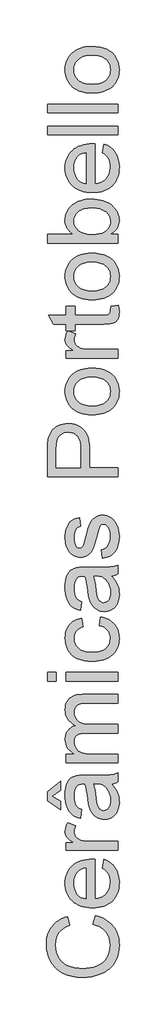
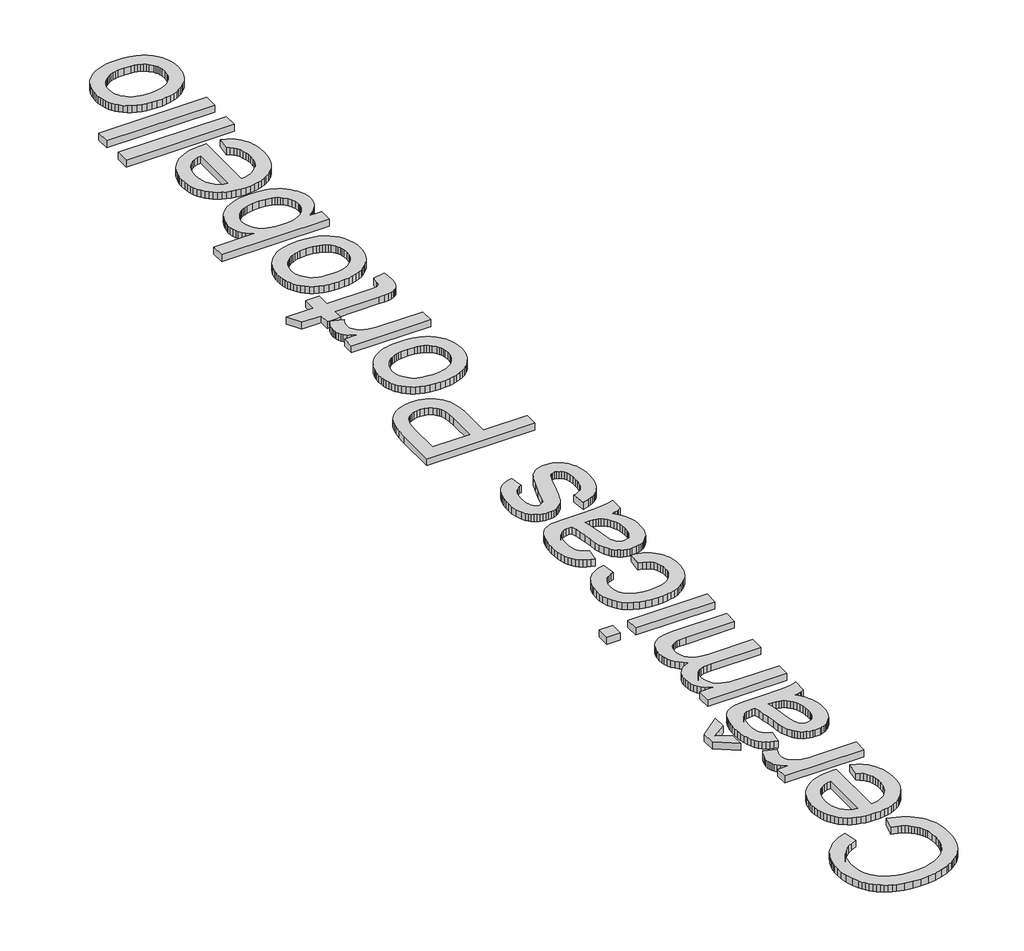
# One storey, part 2 of 4: 1 proxy.
"""IFC4 building model written with IfcOpenShell, lengths in millimetres."""

from ifc_helpers import new_model, si_unit, origin, origin_with_axes, place, context, project, spatial, polyline, outline, extrude, element, save

model = new_model("IFC4")

# Units and contexts
model_context = context("Model", 3, world=origin())
ifc_project = project(units=[si_unit("LENGTHUNIT", "METRE", prefix="MILLI")], contexts=[model_context])

# Site, building, storey
site = spatial("IfcSite", under=ifc_project)
building = spatial("IfcBuilding", under=site)
storey = spatial("IfcBuildingStorey", under=building, Name="PORTOBELLO - SHOWROOM", Elevation=0.0)

# Proxy
placement = place(None, origin())
element("IfcBuildingElementProxy", 1, Name="1200mm OpenSans", ObjectType="1200mm OpenSans", at=placement, inside=storey, context=model_context, shape_type="SweptSolid", body=[
    extrude(outline(polyline([(65897.4001985, 12599.2450748), (65944.9927817, 12783.8466097), (66004.2046479, 12767.0979414), (66059.7941146, 12747.3184007), (66111.7611818, 12724.5079877), (66160.1058495, 12698.6667023), (66204.8281177, 12669.7945445), (66245.9279864, 12637.8915143), (66283.4054556, 12602.9576118), (66317.2605253, 12564.9928369), (66347.3016534, 12524.4084419), (66373.3372977, 12481.6156789), (66395.3674583, 12436.6145479), (66413.3921351, 12389.4050489), (66427.4113282, 12339.987182), (66437.4250376, 12288.3609471), (66443.4332632, 12234.5263442), (66445.4360051, 12178.4833734), (66439.3742603, 12065.9129428), (66431.7970794, 12013.759967), (66421.1890261, 11964.3618177), (66407.5501005, 11917.7184947), (66390.8803024, 11873.8299981), (66371.179632, 11832.6963278), (66348.4480893, 11794.3174839), (66322.8434147, 11758.4202372), (66294.5233489, 11724.7313585), (66263.4878919, 11693.2508477), (66229.7370437, 11663.9787049), (66193.2708042, 11636.9149301), (66154.0891735, 11612.0595233), (66112.1921516, 11589.4124844), (66067.5797384, 11568.9738135), (65973.9494433, 11535.1384614), (65876.9389932, 11510.9703527), (65776.548388, 11496.4694875), (65672.7776278, 11491.6358658), (65561.4353202, 11497.1004498), (65457.4392163, 11513.4942018), (65360.789316, 11540.8171219), (65315.2191922, 11558.5770199), (65271.4856194, 11579.0692099), (65229.9575977, 11602.0796155), (65191.0041275, 11627.39416), (65154.6252087, 11655.0128437), (65120.8208413, 11684.9356663), (65089.5910254, 11717.162628), (65060.9357609, 11751.6937287), (65034.8550478, 11788.5289684), (65011.3488862, 11827.6683472), (64972.4658359, 11910.2793368), (64944.6922285, 11996.9465124), (64928.0280641, 12087.6698742), (64922.4733426, 12182.449422), (64924.2704583, 12236.337544), (64929.6618057, 12288.0341988), (64938.6473845, 12337.5393864), (64951.2271949, 12384.8531068), (64967.4012369, 12429.97536), (64987.1695104, 12472.906146), (65010.5320154, 12513.6454648), (65037.488752, 12552.1933165), (65067.7073382, 12588.2229526), (65100.8553921, 12621.4076248), (65136.9329138, 12651.7473333), (65175.9399031, 12679.2420779), (65217.8763602, 12703.8918586), (65262.742285, 12725.6966755), (65310.5376775, 12744.6565286), (65361.2625377, 12760.7714178), (65405.2496222, 12576.169883), (65332.6551587, 12547.1005495), (65270.6293134, 12512.1722806), (65219.1720863, 12471.3850762), (65178.2834773, 12424.7389364), (65147.1297148, 12371.9634488), (65124.8770274, 12312.788201), (65111.5254149, 12247.2131928), (65107.0748774, 12175.2384245), (65112.0099038, 12092.4246256), (65126.814983, 12016.686618), (65151.4901149, 11948.0244016), (65186.0352996, 11886.4379764), (65228.8956657, 11832.7047782), (65278.5163419, 11787.6022426), (65334.8973283, 11751.1303695), (65398.0386247, 11723.289159), (65465.0783667, 11702.7040147), (65533.1546895, 11688.0003402), (65602.2675933, 11679.1781355), (65672.4170779, 11676.2374006), (65760.5715218, 11679.7189603), (65842.9571677, 11690.1636395), (65919.5740157, 11707.571438), (65990.4220656, 11731.942356), (66054.0929197, 11763.6707448), (66109.17818, 11803.1509558), (66155.6778464, 11850.3829892), (66193.5919189, 11905.3668448), (66223.0105351, 11965.4322001), (66244.0238324, 12027.9087328), (66256.6318108, 12092.7964427), (66260.8344702, 12160.0953298), (66255.110741, 12240.3514781), (66237.9395533, 12314.1853317), (66225.0611625, 12348.693898), (66209.3209071, 12381.5968907), (66190.7187871, 12412.8943098), (66169.2548025, 12442.5861551), (66144.974022, 12470.311877), (66117.9215144, 12495.7109255), (66088.0972796, 12518.7833005), (66055.5013177, 12539.5290022), (66020.1336286, 12557.9480304), (65981.9942124, 12574.0403853), (65897.4001985, 12599.2450748)])), origin_with_axes(), (0.0, 0.0, 1.0), 100.0),
    extrude(outline(polyline([(66099.3081272, 13773.9165603), (66122.3833191, 13954.9125964), (66194.8763779, 13927.1615234), (66227.8948592, 13909.6438698), (66258.7613084, 13889.6981381), (66287.4757256, 13867.3243285), (66314.0381108, 13842.5224407), (66338.4484639, 13815.2924749), (66360.706785, 13785.6344311), (66380.5651959, 13753.6947826), (66397.7758187, 13719.6200029), (66412.3386535, 13683.4100918), (66424.2537, 13645.0650495), (66440.1404288, 13561.969571), (66445.4360051, 13470.3335674), (66443.1515836, 13411.5019686), (66436.2983192, 13355.7913797), (66424.8762119, 13303.2018006), (66408.8852617, 13253.7332314), (66388.3254686, 13207.3856719), (66363.1968325, 13164.1591223), (66333.4993535, 13124.0535826), (66299.2330317, 13087.0690527), (66260.8429206, 13053.8590292), (66218.7740741, 13025.0770089), (66173.0264922, 13000.7229917), (66123.6001749, 12980.7969777), (66070.4951222, 12965.2989667), (66013.711334, 12954.2289589), (65953.2488104, 12947.5869542), (65889.1075514, 12945.3729527), (65822.7832756, 12947.6094886), (65760.278575, 12954.3190964), (65701.5934496, 12965.501776), (65646.7278995, 12981.1575276), (65595.6819245, 13001.2863509), (65548.4555248, 13025.8882461), (65505.0487002, 13054.9632132), (65465.4614509, 13088.5112522), (65430.1388306, 13125.6253547), (65399.525893, 13165.3985125), (65373.622638, 13207.8307257), (65352.4290658, 13252.9219941), (65335.9451763, 13300.6723179), (65324.1709695, 13351.081697), (65317.1064455, 13404.1501314), (65314.7516041, 13459.8776211), (65317.1008119, 13513.7826439), (65324.1484352, 13565.1694511), (65335.894474, 13614.0380429), (65352.3389284, 13660.3884191), (65373.4817982, 13704.2205798), (65399.3230836, 13745.534525), (65429.8627846, 13784.3302546), (65465.1009011, 13820.6077688), (65504.5980129, 13853.4375248), (65547.9147, 13881.88998), (65595.0509622, 13905.9651344), (65646.0067997, 13925.6629879), (65700.7822124, 13940.9835407), (65759.3772003, 13951.9267927), (65821.7917634, 13958.4927439), (65888.0259018, 13960.6813943), (65937.7817842, 13959.5997447), (65937.7817842, 13129.9744875), (66011.4466301, 13140.6670447), (66044.8481957, 13149.9765551), (66075.962523, 13161.92822), (66104.789612, 13176.5220395), (66131.3294628, 13193.7580135), (66155.5820753, 13213.636142), (66177.5474496, 13236.1564251), (66213.9855211, 13286.7798806), (66240.0127151, 13343.284806), (66255.6290314, 13405.6712012), (66260.8344702, 13473.9390661), (66258.4232929, 13525.0019419), (66251.1897611, 13572.1889065), (66239.1338747, 13615.4999599), (66222.2556338, 13654.9351022), (66200.104351, 13690.4943334), (66172.229339, 13722.1776535), (66138.6305977, 13749.9850625), (66099.3081272, 13773.9165603)]), holes=[polyline([(65753.1802494, 13129.9744875), (65753.1802494, 13776.0798595), (65700.9455866, 13766.592891), (65655.6515088, 13751.1117808), (65617.2980161, 13729.636529), (65585.8851084, 13702.1671356), (65565.6041781, 13677.8638207), (65548.0273718, 13651.8253596), (65533.1546895, 13624.0517522), (65520.9861313, 13594.5429986), (65504.7613871, 13530.3200525), (65499.353139, 13459.1565213), (65503.6684703, 13394.2462771), (65516.6144641, 13334.7217465), (65538.1911206, 13280.5829297), (65568.3984396, 13231.8298266), (65605.8392904, 13190.9186832), (65649.1165424, 13160.3057456), (65698.2301953, 13139.9910137), (65753.1802494, 13129.9744875)])]), origin_with_axes(), (0.0, 0.0, 1.0), 100.0),
    extrude(outline(polyline([(66422.3608132, 14145.2829292), (65337.826796, 14145.2829292), (65337.826796, 14306.8092722), (65498.2714893, 14306.8092722), (65446.98327, 14337.2306677), (65405.2496222, 14366.4802761), (65373.070546, 14394.5580975), (65350.4460415, 14421.4641317), (65334.8297252, 14448.4152347), (65323.6752135, 14476.6282622), (65316.9825065, 14506.1032143), (65314.7516041, 14536.840091), (65318.3120341, 14582.6299248), (65328.9933241, 14628.7803085), (65346.7954741, 14675.2912421), (65371.718484, 14722.1627256), (65537.2108756, 14660.5086973), (65520.6481158, 14628.0592088), (65508.8175731, 14595.6097202), (65501.7192475, 14563.1602317), (65499.353139, 14530.7107431), (65501.62911, 14502.4188453), (65508.4570233, 14475.5916814), (65519.8368786, 14450.2292512), (65535.7686761, 14426.331555), (65555.7341253, 14404.7999673), (65579.2149358, 14386.5358628), (65606.2111075, 14371.5392415), (65636.7226405, 14359.8101035), (65687.1094852, 14346.7176362), (65739.8399041, 14337.3658739), (65794.9138972, 14331.7548165), (65852.3314644, 14329.884464), (66422.3608132, 14329.884464), (66422.3608132, 14145.2829292)])), origin_with_axes(), (0.0, 0.0, 1.0), 100.0),
    extrude(outline(polyline([(66283.9096621, 15529.7944405), (66324.9898132, 15486.0214325), (66359.5349979, 15441.5949279), (66387.5452161, 15396.5149266), (66409.0204679, 15350.7814287), (66424.9522654, 15303.8761437), (66436.3321208, 15255.2807812), (66443.160034, 15204.9953411), (66445.4360051, 15153.0198235), (66439.9601539, 15070.8257197), (66433.1153399, 15033.5228919), (66423.5326003, 14998.7495467), (66411.2119351, 14966.5056843), (66396.1533443, 14936.7913045), (66378.3568279, 14909.6064075), (66357.822386, 14884.9509931), (66335.1584463, 14863.0222372), (66310.9734369, 14844.0173154), (66285.2673577, 14827.9362277), (66258.0402087, 14814.7789741), (66229.2919899, 14804.5455547), (66199.0227014, 14797.2359694), (66133.920915, 14791.3883011), (66094.7787194, 14793.5966691), (66057.3942045, 14800.221773), (66021.7673702, 14811.2636129), (65987.8982165, 14826.7221887), (65956.5303776, 14845.774996), (65928.4074875, 14867.5995305), (65903.5295463, 14892.1957921), (65881.896554, 14919.5637809), (65846.7429414, 14980.6319156), (65821.3241753, 15048.8209103), (65807.1725928, 15115.2522243), (65793.5618351, 15208.5445039), (65779.5905276, 15310.0843618), (65764.3572954, 15397.2923623), (65747.8621388, 15470.1685053), (65730.1050575, 15528.7127909), (65689.002372, 15529.7944405), (65644.2491191, 15526.6170948), (65606.6167261, 15517.0850575), (65576.1051931, 15501.1983287), (65552.7145201, 15478.9569085), (65529.3689159, 15440.5132783), (65512.6934843, 15393.6868636), (65502.6882253, 15338.4776643), (65499.353139, 15274.8856805), (65501.5727741, 15215.7555014), (65508.2316796, 15164.9179693), (65519.3298554, 15122.3730843), (65534.8673014, 15088.1208464), (65556.0608736, 15059.975422), (65584.1274278, 15035.7509774), (65619.0669639, 15015.4475127), (65660.879482, 14999.0650278), (65637.8042901, 14814.463493), (65584.6231839, 14828.5136709), (65536.8503257, 14846.5073629), (65494.4857157, 14868.4445693), (65457.5293537, 14894.3252898), (65425.2376058, 14925.2649758), (65396.8668376, 14962.3790783), (65372.4170494, 15005.6675974), (65351.888241, 15055.1305331), (65335.6409624, 15109.765106), (65324.0357633, 15168.5685368), (65317.0726439, 15231.5408255), (65314.7516041, 15298.6819721), (65316.8022315, 15364.3133161), (65322.9541137, 15423.4772968), (65333.2072507, 15476.1739141), (65347.5616425, 15522.4031681), (65365.0145098, 15562.548143), (65384.5630732, 15596.9919231), (65406.2073328, 15625.7345082), (65429.9472885, 15648.7758985), (65456.3688338, 15667.4568888), (65486.0578624, 15683.1182739), (65519.0143742, 15695.7600538), (65555.2383692, 15705.3822286), (65619.0556967, 15712.1425387), (65716.7647122, 15714.3959754), (65946.4349812, 15714.3959754), (66146.4950918, 15716.7395495), (66267.144093, 15723.7702721), (66346.4199962, 15737.6514422), (66422.3608132, 15760.5463591), (66422.3608132, 15575.9448242), (66391.5337991, 15559.539805), (66358.1829358, 15546.3797347), (66322.3082235, 15536.4646132), (66283.9096621, 15529.7944405)]), holes=[polyline([(65914.7065924, 15529.7944405), (65930.6834586, 15473.9993477), (65945.443469, 15405.7652843), (65971.3129224, 15231.9802456), (65985.4645049, 15136.2091857), (66001.2385618, 15073.1580267), (66021.6997671, 15031.8299975), (66034.8373031, 15015.1883675), (66049.9127946, 15001.2283271), (66083.7143452, 14982.2994588), (66101.8995794, 14977.5672417), (66120.9411196, 14975.989836), (66149.6273688, 14979.426327), (66175.8348377, 14989.7357999), (66199.5635262, 15006.9182548), (66220.8134343, 15030.9736916), (66238.3226375, 15061.6767667), (66250.8292112, 15098.8021364), (66258.3331555, 15142.3498007), (66260.8344702, 15192.3197596), (66258.0740102, 15243.3375666), (66249.7926304, 15291.4709746), (66235.9903305, 15336.7199837), (66216.6671108, 15379.0845937), (66193.4229112, 15417.3028802), (66167.8576718, 15450.1129186), (66139.9713926, 15477.514709), (66109.7640735, 15499.5082512), (66082.7228331, 15512.2852373), (66049.9127946, 15521.411656), (66011.3339583, 15526.8875072), (65966.9863239, 15528.7127909), (65914.7065924, 15529.7944405)])]), origin_with_axes(), (0.0, 0.0, 1.0), 100.0),
    extrude(outline(polyline([(65037.8493019, 15275.9673301), (65222.4508367, 15172.1289668), (65222.4508367, 14987.5274319), (64945.5485344, 15183.6665627), (64945.5485344, 15368.2680975), (65222.4508367, 15587.4824202), (65222.4508367, 15402.8808853), (65037.8493019, 15275.9673301)])), origin_with_axes(), (0.0, 0.0, 1.0), 100.0),
    extrude(outline(polyline([(66422.3608132, 15968.2230858), (65337.826796, 15968.2230858), (65337.826796, 16152.8246206), (65516.298983, 16152.8246206), (65473.0893342, 16178.6039365), (65434.3189557, 16208.349301), (65399.9878475, 16242.0607141), (65370.0960096, 16279.7381758), (65345.8828322, 16320.7732582), (65328.5877055, 16364.5575334), (65318.2106295, 16411.0910013), (65314.7516041, 16460.3736621), (65318.2782326, 16514.2533337), (65328.8581179, 16563.0402383), (65346.4912601, 16606.734376), (65371.1776592, 16645.3357468), (65402.2187498, 16678.7316788), (65438.9159665, 16706.8095001), (65481.2693094, 16729.5692108), (65529.2787784, 16747.0108109), (65478.9989719, 16779.4715666), (65435.4231397, 16814.2984309), (65398.5512816, 16851.4914037), (65368.3833977, 16891.0504851), (65344.919488, 16932.975675), (65328.1595525, 16977.2669734), (65318.1035912, 17023.9243804), (65314.7516041, 17072.9478959), (65320.32886, 17146.8493526), (65327.3004298, 17180.4114755), (65337.0606275, 17211.7145281), (65349.6094531, 17240.7585105), (65364.9469067, 17267.5434225), (65383.0729882, 17292.0692642), (65403.9876976, 17314.3360357), (65427.8037068, 17334.1521947), (65454.6336876, 17351.3261992), (65484.4776399, 17365.8580491), (65517.3355639, 17377.7477445), (65553.2074594, 17386.9952854), (65592.0933265, 17393.6006718), (65678.9069756, 17398.8849808), (66422.3608132, 17398.8849808), (66422.3608132, 17214.283446), (65758.2279476, 17214.283446), (65666.1525238, 17210.0019163), (65631.3707283, 17204.6500041), (65604.092877, 17197.157327), (65581.7049833, 17186.8591213), (65561.5930608, 17173.090623), (65543.7571092, 17155.8518322), (65528.1971288, 17135.1427489), (65515.5778832, 17111.7182744), (65506.5641364, 17086.3333099), (65501.1558883, 17058.9878555), (65499.353139, 17029.6819111), (65503.9726842, 16977.368378), (65517.8313199, 16929.6743902), (65540.9290462, 16886.5999476), (65573.2658629, 16848.1450502), (65593.135541, 16831.202023), (65615.7882135, 16816.5180661), (65669.4425414, 16793.9273631), (65734.2288467, 16780.3729413), (65810.1471293, 16775.8548007), (66422.3608132, 16775.8548007), (66422.3608132, 16591.2532659), (65737.6766049, 16591.2532659), (65681.7463058, 16588.5829434), (65633.2974167, 16580.5719759), (65592.3299374, 16567.2203634), (65558.843868, 16548.528106), (65532.816674, 16523.7515694), (65514.2258212, 16492.1471196), (65503.0713095, 16453.7147566), (65499.353139, 16408.4544804), (65501.8319193, 16372.1966838), (65509.2682605, 16337.336018), (65521.6621623, 16303.8724829), (65539.013625, 16271.8060786), (65561.1423734, 16242.6015389), (65587.8681327, 16217.7235977), (65619.1909029, 16197.172255), (65655.110684, 16180.9475107), (65697.5428971, 16168.6437463), (65748.4029636, 16159.8553431), (65807.6908833, 16154.5823013), (65875.4066562, 16152.8246206), (66422.3608132, 16152.8246206), (66422.3608132, 15968.2230858)])), origin_with_axes(), (0.0, 0.0, 1.0), 100.0),
    extrude(outline(polyline([(65130.1500693, 17675.7872831), (64945.5485344, 17675.7872831), (64945.5485344, 17860.388818), (65130.1500693, 17860.388818), (65130.1500693, 17675.7872831)])), origin_with_axes(), (0.0, 0.0, 1.0), 100.0),
    extrude(outline(polyline([(66422.3608132, 17675.7872831), (65337.826796, 17675.7872831), (65337.826796, 17860.388818), (66422.3608132, 17860.388818), (66422.3608132, 17675.7872831)])), origin_with_axes(), (0.0, 0.0, 1.0), 100.0),
    extrude(outline(polyline([(66030.0825516, 18829.5468759), (66053.1577435, 19014.1484107), (66097.9645156, 19005.5233817), (66140.2643393, 18994.0702897), (66180.0572147, 18979.7891346), (66217.3431418, 18962.6799164), (66252.1221205, 18942.7426352), (66284.394151, 18919.9772908), (66314.159233, 18894.3838835), (66341.4173668, 18865.962413), (66365.7967351, 18835.2818723), (66386.925521, 18802.911254), (66404.8037245, 18768.8505583), (66419.4313455, 18733.0997849), (66430.808384, 18695.6589341), (66438.9348402, 18656.5280057), (66443.8107138, 18615.7069998), (66445.4360051, 18573.1959164), (66443.1684844, 18520.0908636), (66436.3659223, 18469.661767), (66425.0283189, 18421.9086264), (66409.1556741, 18376.8314419), (66388.747988, 18334.4302135), (66363.8052604, 18294.7049412), (66334.3274915, 18257.655625), (66300.3146813, 18223.2822649), (66262.06541, 18192.3115942), (66219.8782581, 18165.4703462), (66173.7532256, 18142.758521), (66123.6903124, 18124.1761186), (66069.6895185, 18109.7231389), (66011.7508441, 18099.399582), (65949.8742889, 18093.2054479), (65884.0598532, 18091.1407365), (65799.1841597, 18094.667365), (65719.7843174, 18105.2472503), (65645.8603263, 18122.8803925), (65577.4121864, 18147.5667916), (65515.8144941, 18179.4754553), (65462.4418457, 18218.7753915), (65417.2942414, 18265.4666), (65380.371681, 18319.5490809), (65351.6628973, 18378.5778554), (65331.1566233, 18440.1079446), (65318.8528589, 18504.1393486), (65314.7516041, 18570.6720673), (65320.3851959, 18652.5732243), (65327.4271856, 18690.5915183), (65337.2859712, 18726.654956), (65349.9615526, 18760.7635373), (65365.45393, 18792.9172623), (65383.7631032, 18823.1161309), (65404.8890723, 18851.3601432), (65428.6064936, 18877.4014211), (65454.6900235, 18900.9920866), (65483.1396619, 18922.1321397), (65513.9554088, 18940.8215804), (65547.1372643, 18957.0604086), (65582.6852283, 18970.8486245), (65660.879482, 18991.0732189), (65683.9546738, 18806.471684), (65640.8351625, 18792.0609563), (65603.416846, 18772.9856146), (65571.6997244, 18749.2456589), (65545.6837976, 18720.8410893), (65525.4141345, 18688.4930054), (65510.9358036, 18652.922507), (65502.2488051, 18614.1295941), (65499.353139, 18572.1142668), (65505.0543338, 18509.3898561), (65522.1579184, 18452.8173276), (65534.9856069, 18426.8380192), (65550.6638927, 18402.3966813), (65590.5722568, 18358.1279173), (65615.0333122, 18338.8187815), (65642.8069196, 18322.0841972), (65673.8930789, 18307.9241643), (65708.2917902, 18296.3386828), (65787.0268687, 18280.8913742), (65879.012155, 18275.7422714), (65972.3833048, 18280.7787024), (66052.0310252, 18295.8879955), (66086.7085992, 18307.2199653), (66117.9553159, 18321.0701507), (66145.7711753, 18337.4385515), (66170.1561772, 18356.3251679), (66209.8279304, 18399.7150917), (66225.413262, 18423.7339101), (66238.164897, 18449.3019663), (66255.1670769, 18505.085792), (66260.8344702, 18567.0665685), (66257.2965746, 18617.0139931), (66246.6828877, 18662.6573535), (66228.9934096, 18703.9966499), (66204.2281402, 18741.0318821), (66172.1166671, 18772.7264694), (66132.388578, 18798.0438308), (66085.0438729, 18816.9839663), (66030.0825516, 18829.5468759)])), origin_with_axes(), (0.0, 0.0, 1.0), 100.0),
    extrude(outline(polyline([(66283.9096621, 19867.9305094), (66324.9898132, 19824.1575014), (66359.5349979, 19779.7309968), (66387.5452161, 19734.6509955), (66409.0204679, 19688.9174976), (66424.9522654, 19642.0122126), (66436.3321208, 19593.41685), (66443.160034, 19543.13141), (66445.4360051, 19491.1558924), (66439.9601539, 19408.9617886), (66433.1153399, 19371.6589607), (66423.5326003, 19336.8856156), (66411.2119351, 19304.6417531), (66396.1533443, 19274.9273734), (66378.3568279, 19247.7424763), (66357.822386, 19223.087062), (66335.1584463, 19201.1583061), (66310.9734369, 19182.1533843), (66285.2673577, 19166.0722966), (66258.0402087, 19152.915043), (66229.2919899, 19142.6816236), (66199.0227014, 19135.3720383), (66133.920915, 19129.52437), (66094.7787194, 19131.732738), (66057.3942045, 19138.3578419), (66021.7673702, 19149.3996818), (65987.8982165, 19164.8582575), (65956.5303776, 19183.9110649), (65928.4074875, 19205.7355994), (65903.5295463, 19230.331861), (65881.896554, 19257.6998498), (65846.7429414, 19318.7679845), (65821.3241753, 19386.9569792), (65807.1725928, 19453.3882932), (65793.5618351, 19546.6805728), (65779.5905276, 19648.2204307), (65764.3572954, 19735.4284312), (65747.8621388, 19808.3045742), (65730.1050575, 19866.8488598), (65689.002372, 19867.9305094), (65644.2491191, 19864.7531636), (65606.6167261, 19855.2211264), (65576.1051931, 19839.3343976), (65552.7145201, 19817.0929773), (65529.3689159, 19778.6493472), (65512.6934843, 19731.8229324), (65502.6882253, 19676.6137332), (65499.353139, 19613.0217494), (65501.5727741, 19553.8915702), (65508.2316796, 19503.0540382), (65519.3298554, 19460.5091532), (65534.8673014, 19426.2569153), (65556.0608736, 19398.1114908), (65584.1274278, 19373.8870463), (65619.0669639, 19353.5835816), (65660.879482, 19337.2010967), (65637.8042901, 19152.5995619), (65584.6231839, 19166.6497397), (65536.8503257, 19184.6434318), (65494.4857157, 19206.5806381), (65457.5293537, 19232.4613587), (65425.2376058, 19263.4010446), (65396.8668376, 19300.5151472), (65372.4170494, 19343.8036663), (65351.888241, 19393.2666019), (65335.6409624, 19447.9011748), (65324.0357633, 19506.7046056), (65317.0726439, 19569.6768944), (65314.7516041, 19636.818041), (65316.8022315, 19702.449385), (65322.9541137, 19761.6133657), (65333.2072507, 19814.309983), (65347.5616425, 19860.539237), (65365.0145098, 19900.6842119), (65384.5630732, 19935.1279919), (65406.2073328, 19963.8705771), (65429.9472885, 19986.9119674), (65456.3688338, 20005.5929577), (65486.0578624, 20021.2543428), (65519.0143742, 20033.8961227), (65555.2383692, 20043.5182974), (65619.0556967, 20050.2786075), (65716.7647122, 20052.5320442), (65946.4349812, 20052.5320442), (66146.4950918, 20054.8756184), (66267.144093, 20061.9063409), (66346.4199962, 20075.787511), (66422.3608132, 20098.682428), (66422.3608132, 19914.0808931), (66391.5337991, 19897.6758739), (66358.1829358, 19884.5158035), (66322.3082235, 19874.600682), (66283.9096621, 19867.9305094)]), holes=[polyline([(65914.7065924, 19867.9305094), (65930.6834586, 19812.1354166), (65945.443469, 19743.9013532), (65971.3129224, 19570.1163145), (65985.4645049, 19474.3452546), (66001.2385618, 19411.2940956), (66021.6997671, 19369.9660664), (66034.8373031, 19353.3244363), (66049.9127946, 19339.364396), (66083.7143452, 19320.4355276), (66101.8995794, 19315.7033106), (66120.9411196, 19314.1259049), (66149.6273688, 19317.5623958), (66175.8348377, 19327.8718688), (66199.5635262, 19345.0543236), (66220.8134343, 19369.1097605), (66238.3226375, 19399.8128356), (66250.8292112, 19436.9382053), (66258.3331555, 19480.4858696), (66260.8344702, 19530.4558285), (66258.0740102, 19581.4736355), (66249.7926304, 19629.6070435), (66235.9903305, 19674.8560525), (66216.6671108, 19717.2206626), (66193.4229112, 19755.4389491), (66167.8576718, 19788.2489875), (66139.9713926, 19815.6507778), (66109.7640735, 19837.6443201), (66082.7228331, 19850.4213062), (66049.9127946, 19859.5477249), (66011.3339583, 19865.023576), (65966.9863239, 19866.8488598), (65914.7065924, 19867.9305094)])]), origin_with_axes(), (0.0, 0.0, 1.0), 100.0),
    extrude(outline(polyline([(66099.3081272, 20237.1335791), (66076.2329354, 20421.7351139), (66118.327133, 20432.8896256), (66155.1933575, 20450.8495162), (66186.8316088, 20475.6147855), (66213.241887, 20507.1854338), (66234.0636422, 20545.6515983), (66248.9363244, 20591.1034167), (66257.8599338, 20643.5408888), (66260.8344702, 20702.9640147), (66258.1078118, 20762.3195375), (66249.9278366, 20813.4725507), (66236.2945445, 20856.4230543), (66217.2079356, 20891.1710482), (66194.4482249, 20917.986945), (66169.7956273, 20937.141157), (66143.250143, 20948.6336842), (66114.8117717, 20952.4645266), (66089.8887618, 20948.6111499), (66067.7600134, 20937.0510196), (66048.4255264, 20917.7841357), (66031.885301, 20890.8104984), (66008.4495593, 20821.6750603), (65979.2450196, 20700.8007154), (65930.525718, 20532.3337874), (65908.8363898, 20470.2065375), (65888.9272765, 20422.8167636), (65868.0717198, 20385.2181721), (65843.5430612, 20352.4644696), (65815.3413009, 20324.555656), (65783.4664387, 20301.4917314), (65748.8761853, 20283.4304362), (65712.5282512, 20270.5295111), (65674.4226366, 20262.788956), (65634.5593412, 20260.2087709), (65598.1100025, 20262.2819327), (65563.0352602, 20268.501418), (65529.3351143, 20278.8672269), (65497.0095648, 20293.3793592), (65466.7121083, 20311.474456), (65439.0962415, 20332.5891579), (65414.1619643, 20356.723465), (65391.9092769, 20383.8773773), (65362.2089811, 20434.8501156), (65337.2859712, 20501.2363609), (65320.3851959, 20577.988415), (65314.7516041, 20660.0585798), (65317.016308, 20722.0956923), (65323.8104197, 20780.2118249), (65335.1339391, 20834.4069777), (65350.9868663, 20884.6811505), (65370.7044375, 20929.8400221), (65393.6218888, 20968.6892709), (65419.7392202, 21001.2288969), (65449.0564317, 21027.4589001), (65482.5988371, 21048.7313426), (65521.3917499, 21066.3982864), (65565.4351703, 21080.4597314), (65614.7290982, 21090.9156778), (65637.8042901, 20906.3141429), (65606.9660088, 20897.5144726), (65579.7106919, 20883.0136074), (65556.0383393, 20862.8115473), (65535.9489511, 20836.9082924), (65519.9382833, 20805.1911708), (65508.502092, 20767.5475106), (65501.6403772, 20723.9773119), (65499.353139, 20674.4805747), (65501.5389726, 20617.0630075), (65508.0964734, 20568.4789121), (65519.0256414, 20528.7282887), (65534.3264766, 20497.8111371), (65552.5342452, 20474.6232734), (65572.1842133, 20458.0605136), (65593.2763808, 20448.1228577), (65615.8107479, 20444.8103058), (65644.2040503, 20450.3086913), (65669.5326789, 20466.803848), (65692.1571834, 20495.0168756), (65710.2748145, 20535.6688737), (65749.5747507, 20694.6713676), (65797.7982961, 20857.7751163), (65836.46727, 20965.624597), (65855.3285352, 21003.5724711), (65878.0206428, 21037.1937467), (65904.5435928, 21066.4884239), (65934.8973852, 21091.4565026), (65969.1270888, 21111.4106846), (66007.2777722, 21125.6636717), (66049.3494355, 21134.215464), (66095.3420786, 21137.0660615), (66141.5375311, 21133.719708), (66186.3809215, 21123.6806474), (66229.8722499, 21106.9488799), (66272.0115163, 21083.5244054), (66311.1199103, 21053.790308), (66345.5186216, 21018.1296722), (66375.2076502, 20976.5424978), (66400.186996, 20929.0287849), (66419.9834375, 20876.8842595), (66434.1237528, 20821.4046479), (66442.607942, 20762.5899499), (66445.4360051, 20700.4401656), (66439.9826882, 20601.0861413), (66433.1660422, 20556.1244454), (66423.6227378, 20514.3062938), (66411.3527749, 20475.6316863), (66396.3561536, 20440.1006231), (66378.6328739, 20407.713104), (66358.1829358, 20378.4691292), (66335.0514081, 20352.0475838), (66309.2833594, 20328.1273532), (66280.8787897, 20306.7084373), (66249.8376991, 20287.7908362), (66216.1600875, 20271.3745498), (66179.845955, 20257.4595782), (66099.3081272, 20237.1335791)])), origin_with_axes(), (0.0, 0.0, 1.0), 100.0),
    extrude(outline(polyline([(66422.3608132, 21944.6977764), (64945.5485344, 21944.6977764), (64945.5485344, 22492.0124832), (64949.0638957, 22619.4668633), (64959.6099795, 22712.6690054), (64970.6856209, 22764.036095), (64985.8850514, 22811.0540519), (65005.2082712, 22853.7228759), (65028.6552801, 22892.042567), (65056.7105671, 22926.418744), (65089.858621, 22957.2570253), (65128.0994419, 22984.557411), (65171.4330297, 23008.319901), (65218.4284522, 23027.5642505), (65267.654777, 23041.3102144), (65319.1120041, 23049.5577927), (65372.8001336, 23052.3069855), (65419.0350212, 23050.450717), (65463.4558923, 23044.8819115), (65506.0627468, 23035.6005691), (65546.8555847, 23022.6066897), (65585.8344061, 23005.9002733), (65622.999211, 22985.48132), (65658.3499993, 22961.3498297), (65691.886771, 22933.5058024), (65722.4771743, 22900.8168862), (65748.9888571, 22862.1507292), (65771.4218195, 22817.5073312), (65789.7760615, 22766.8866925), (65804.051583, 22710.2888128), (65814.2483841, 22647.7136923), (65820.3664647, 22579.161331), (65822.4058249, 22504.6317288), (65822.4058249, 22129.2993113), (66422.3608132, 22129.2993113), (66422.3608132, 21944.6977764)]), holes=[polyline([(65637.8042901, 22129.2993113), (65637.8042901, 22515.448225), (65633.5678291, 22604.2336311), (65620.8584461, 22679.1378672), (65599.6761411, 22740.1609332), (65585.9076428, 22765.4670273), (65570.020914, 22787.302829), (65532.6814678, 22822.478976), (65488.4465053, 22847.6047952), (65437.3160265, 22862.6802868), (65379.2900313, 22867.7054506), (65336.2043216, 22864.7421814), (65296.3635606, 22855.8523736), (65259.7677485, 22841.0360272), (65226.4168853, 22820.2931424), (65197.3926205, 22794.727903), (65173.7766039, 22765.444493), (65155.5688353, 22732.4429124), (65142.7693148, 22695.7231613), (65133.3048807, 22624.5145615), (65130.1500693, 22511.1216265), (65130.1500693, 22129.2993113), (65637.8042901, 22129.2993113)])]), origin_with_axes(), (0.0, 0.0, 1.0), 100.0),
    extrude(outline(polyline([(65880.0938046, 23236.9085203), (65807.4373716, 23239.4042015), (65739.6370948, 23246.8912449), (65676.692974, 23259.3696507), (65618.6050094, 23276.8394187), (65565.3732008, 23299.3005491), (65516.9975484, 23326.7530417), (65473.478052, 23359.1968967), (65434.8147117, 23396.632114), (65406.6749209, 23430.8956191), (65382.2871022, 23466.9844079), (65361.6512555, 23504.8984804), (65344.767381, 23544.6378367), (65331.6354786, 23586.2024767), (65322.2555483, 23629.5924005), (65316.6275902, 23674.807608), (65314.7516041, 23721.8480992), (65317.0360256, 23773.9898077), (65323.88929, 23823.692171), (65335.3113973, 23870.9551891), (65351.3023475, 23915.778862), (65371.8621406, 23958.1631896), (65396.9907767, 23998.108172), (65426.6882556, 24035.6138091), (65460.9545775, 24070.6801011), (65499.2489175, 24102.4113067), (65541.0304508, 24129.9116848), (65586.2991774, 24153.1812356), (65635.0550973, 24172.219959), (65687.2982105, 24187.0278549), (65743.028517, 24197.6049234), (65802.2460168, 24203.9511646), (65864.9507099, 24206.0665783), (65963.7639094, 24202.3258733), (66051.4451316, 24191.1037586), (66127.9943765, 24172.4002339), (66193.411644, 24146.2152994), (66249.9165694, 24112.8757033), (66299.7287877, 24072.7081941), (66342.8482991, 24025.7127716), (66379.2751034, 23971.8894359), (66408.2204979, 23913.3338832), (66428.8957796, 23852.1418094), (66441.3009487, 23788.3132148), (66445.4360051, 23721.8480992), (66443.160034, 23668.8838862), (66436.3321208, 23618.5167591), (66424.9522654, 23570.7467177), (66409.0204679, 23525.5737622), (66388.5367283, 23482.9978925), (66363.5010465, 23443.0191085), (66333.9134225, 23405.6374104), (66299.7738565, 23370.8527981), (66261.3527606, 23339.459608), (66218.9205475, 23312.2521766), (66172.477217, 23289.2305038), (66122.0227692, 23270.3945898), (66067.557204, 23255.7444344), (66009.0805216, 23245.2800377), (65946.5927217, 23239.0013997), (65880.0938046, 23236.9085203)]), holes=[polyline([(65879.7332547, 23421.5100552), (65969.2735622, 23426.8507002), (66009.5396593, 23433.5265064), (66046.803052, 23442.8726351), (66081.0637403, 23454.8890864), (66112.3217242, 23469.5758601), (66140.5770037, 23486.9329563), (66165.8295787, 23506.960375), (66207.3942188, 23552.4347277), (66223.7231845, 23577.2337987), (66237.0832473, 23603.407466), (66247.4744073, 23630.9557297), (66254.8966645, 23659.8785898), (66260.8344702, 23721.8480992), (66254.8628629, 23783.5021274), (66247.3983539, 23812.3010485), (66236.9480411, 23839.7479076), (66223.5119248, 23865.8427046), (66207.0900048, 23890.5854396), (66165.2887539, 23936.0147236), (66139.8361863, 23956.0421423), (66111.2513418, 23973.3992385), (66079.5342201, 23988.0860122), (66044.6848215, 24000.1024635), (66006.7031458, 24009.4485922), (65965.5891932, 24016.1243984), (65873.9644568, 24021.4650434), (65787.2634795, 24016.0905969), (65748.1128336, 24009.3725387), (65711.7620827, 23999.9672573), (65678.211227, 23987.8747525), (65647.4602664, 23973.0950246), (65619.5092009, 23955.6280733), (65594.3580304, 23935.4738988), (65552.7933904, 23889.8756071), (65536.4644247, 23865.1244217), (65523.1043618, 23839.0718765), (65512.7132018, 23811.7179718), (65505.2909447, 23783.0627073), (65499.353139, 23721.8480992), (65505.2684103, 23659.8785898), (65512.6624995, 23630.9557297), (65523.0142244, 23603.407466), (65536.3235849, 23577.2337987), (65552.5905811, 23552.4347277), (65593.9974806, 23506.960375), (65619.1655518, 23486.9329563), (65647.3475945, 23469.5758601), (65678.5436089, 23454.8890864), (65712.7535949, 23442.8726351), (65749.9775525, 23433.5265064), (65790.2154816, 23426.8507002), (65879.7332547, 23421.5100552)])]), origin_with_axes(), (0.0, 0.0, 1.0), 100.0),
    extrude(outline(polyline([(66268.4060175, 25498.2773222), (66427.7690613, 25521.352514), (66441.0192691, 25448.2510273), (66445.4360051, 25383.2619128), (66443.5205839, 25336.1425513), (66437.7743203, 25294.6567816), (66428.1972143, 25258.8046036), (66414.7892659, 25228.5860174), (66398.2715748, 25203.2123201), (66379.3652409, 25181.8948089), (66358.070264, 25164.6334837), (66334.3866442, 25151.4283446), (66302.6357211, 25141.6484293), (66257.138834, 25134.6627755), (66197.895983, 25130.4713833), (66124.9071682, 25129.0742525), (65522.4283308, 25129.0742525), (65522.4283308, 24990.6231014), (65371.718484, 24990.6231014), (65337.826796, 24990.6231014), (65337.826796, 25129.0742525), (65074.264839, 25129.0742525), (64965.7393273, 25313.6757873), (65337.826796, 25313.6757873), (65337.826796, 25498.2773222), (65522.4283308, 25498.2773222), (65522.4283308, 25313.6757873), (66119.4989201, 25313.6757873), (66180.2515736, 25316.109499), (66214.6840865, 25323.4106339), (66233.748161, 25336.1650857), (66248.3954996, 25354.9587478), (66257.7247276, 25381.5943696), (66260.8344702, 25417.8747006), (66268.4060175, 25498.2773222)])), origin_with_axes(), (0.0, 0.0, 1.0), 100.0),
    extrude(outline(polyline([(66422.3608132, 24413.743305), (65337.826796, 24413.743305), (65337.826796, 24575.269648), (65498.2714893, 24575.269648), (65446.98327, 24605.6910435), (65405.2496222, 24634.9406519), (65373.070546, 24663.0184732), (65350.4460415, 24689.9245075), (65334.8297252, 24716.8756105), (65323.6752135, 24745.088638), (65316.9825065, 24774.5635901), (65314.7516041, 24805.3004668), (65318.3120341, 24851.0903006), (65328.9933241, 24897.2406843), (65346.7954741, 24943.7516179), (65371.718484, 24990.6231014), (65537.2108756, 24928.9690731), (65520.6481158, 24896.5195846), (65508.8175731, 24864.070096), (65501.7192475, 24831.6206075), (65499.353139, 24799.1711189), (65501.62911, 24770.8792211), (65508.4570233, 24744.0520571), (65519.8368786, 24718.689627), (65535.7686761, 24694.7919308), (65555.7341253, 24673.2603431), (65579.2149358, 24654.9962386), (65606.2111075, 24639.9996173), (65636.7226405, 24628.2704793), (65687.1094852, 24615.178012), (65739.8399041, 24605.8262497), (65794.9138972, 24600.2151923), (65852.3314644, 24598.3448398), (66422.3608132, 24598.3448398), (66422.3608132, 24413.743305)])), origin_with_axes(), (0.0, 0.0, 1.0), 100.0),
    extrude(outline(polyline([(65880.0938046, 25636.7284733), (65807.4373716, 25639.2241545), (65739.6370948, 25646.7111979), (65676.692974, 25659.1896037), (65618.6050094, 25676.6593717), (65565.3732008, 25699.1205021), (65516.9975484, 25726.5729947), (65473.478052, 25759.0168497), (65434.8147117, 25796.452067), (65406.6749209, 25830.715572), (65382.2871022, 25866.8043609), (65361.6512555, 25904.7184334), (65344.767381, 25944.4577897), (65331.6354786, 25986.0224297), (65322.2555483, 26029.4123535), (65316.6275902, 26074.627561), (65314.7516041, 26121.6680522), (65317.0360256, 26173.8097607), (65323.88929, 26223.512124), (65335.3113973, 26270.7751421), (65351.3023475, 26315.598815), (65371.8621406, 26357.9831426), (65396.9907767, 26397.928125), (65426.6882556, 26435.4337621), (65460.9545775, 26470.500054), (65499.2489175, 26502.2312596), (65541.0304508, 26529.7316378), (65586.2991774, 26553.0011886), (65635.0550973, 26572.039912), (65687.2982105, 26586.8478079), (65743.028517, 26597.4248764), (65802.2460168, 26603.7711176), (65864.9507099, 26605.8865313), (65963.7639094, 26602.1458263), (66051.4451316, 26590.9237115), (66127.9943765, 26572.2201869), (66193.411644, 26546.0352524), (66249.9165694, 26512.6956563), (66299.7287877, 26472.5281471), (66342.8482991, 26425.5327246), (66379.2751034, 26371.7093889), (66408.2204979, 26313.1538361), (66428.8957796, 26251.9617624), (66441.3009487, 26188.1331678), (66445.4360051, 26121.6680522), (66443.160034, 26068.7038392), (66436.3321208, 26018.3367121), (66424.9522654, 25970.5666707), (66409.0204679, 25925.3937152), (66388.5367283, 25882.8178455), (66363.5010465, 25842.8390615), (66333.9134225, 25805.4573634), (66299.7738565, 25770.672751), (66261.3527606, 25739.279561), (66218.9205475, 25712.0721295), (66172.477217, 25689.0504568), (66122.0227692, 25670.2145428), (66067.557204, 25655.5643874), (66009.0805216, 25645.0999907), (65946.5927217, 25638.8213527), (65880.0938046, 25636.7284733)]), holes=[polyline([(65879.7332547, 25821.3300082), (65969.2735622, 25826.6706532), (66009.5396593, 25833.3464594), (66046.803052, 25842.6925881), (66081.0637403, 25854.7090394), (66112.3217242, 25869.3958131), (66140.5770037, 25886.7529093), (66165.8295787, 25906.780328), (66207.3942188, 25952.2546807), (66223.7231845, 25977.0537516), (66237.0832473, 26003.227419), (66247.4744073, 26030.7756827), (66254.8966645, 26059.6985428), (66260.8344702, 26121.6680522), (66254.8628629, 26183.3220804), (66247.3983539, 26212.1210015), (66236.9480411, 26239.5678606), (66223.5119248, 26265.6626576), (66207.0900048, 26290.4053926), (66165.2887539, 26335.8346766), (66139.8361863, 26355.8620953), (66111.2513418, 26373.2191915), (66079.5342201, 26387.9059652), (66044.6848215, 26399.9224165), (66006.7031458, 26409.2685452), (65965.5891932, 26415.9443514), (65873.9644568, 26421.2849964), (65787.2634795, 26415.9105499), (65748.1128336, 26409.1924917), (65711.7620827, 26399.7872103), (65678.211227, 26387.6947055), (65647.4602664, 26372.9149776), (65619.5092009, 26355.4480263), (65594.3580304, 26335.2938518), (65552.7933904, 26289.69556), (65536.4644247, 26264.9443746), (65523.1043618, 26238.8918295), (65512.7132018, 26211.5379247), (65505.2909447, 26182.8826602), (65499.353139, 26121.6680522), (65505.2684103, 26059.6985428), (65512.6624995, 26030.7756827), (65523.0142244, 26003.227419), (65536.3235849, 25977.0537516), (65552.5905811, 25952.2546807), (65593.9974806, 25906.780328), (65619.1655518, 25886.7529093), (65647.3475945, 25869.3958131), (65678.5436089, 25854.7090394), (65712.7535949, 25842.6925881), (65749.9775525, 25833.3464594), (65790.2154816, 25826.6706532), (65879.7332547, 25821.3300082)])]), origin_with_axes(), (0.0, 0.0, 1.0), 100.0),
    extrude(outline(polyline([(66422.3608132, 26998.1647928), (66422.3608132, 26813.563258), (64945.5485344, 26813.563258), (64945.5485344, 26998.1647928), (65493.2237911, 26998.1647928), (65451.3943723, 27027.5383403), (65415.1422093, 27058.8723776), (65384.4673022, 27092.1669049), (65359.3696509, 27127.4219222), (65339.8492554, 27164.6374294), (65325.9061158, 27203.8134265), (65317.540232, 27244.9499135), (65314.7516041, 27288.0468905), (65317.264186, 27336.2479016), (65324.8019318, 27383.1419194), (65337.3648415, 27428.728944), (65354.9529149, 27473.0089752), (65377.0929306, 27514.6975543), (65403.3116666, 27552.5102222), (65433.6091231, 27586.4469789), (65467.9853, 27616.5078246), (65506.2824568, 27643.1096449), (65548.3428529, 27666.6693256), (65594.1664883, 27687.1868668), (65643.753363, 27704.6622685), (65696.1119648, 27718.6223088), (65750.2507817, 27728.5937663), (65806.1698135, 27734.5766407), (65863.8690603, 27736.5709322), (65931.3932912, 27734.5062208), (65994.9740078, 27728.3120867), (66054.6112102, 27717.9885298), (66110.3048983, 27703.5355501), (66162.0550723, 27684.9531477), (66209.8617319, 27662.2413225), (66253.7248774, 27635.4000745), (66293.6445086, 27604.4294038), (66329.2206406, 27570.563067), (66360.0532883, 27535.0348205), (66386.1424518, 27497.8446645), (66407.4881309, 27458.9925989), (66424.0903259, 27418.4786238), (66435.9490365, 27376.302739), (66443.0642629, 27332.4649447), (66445.4360051, 27286.9652409), (66442.3769647, 27242.2288887), (66433.1998437, 27199.9600497), (66417.9046421, 27160.1587239), (66396.4913598, 27122.8249113), (66368.9599969, 27087.9586119), (66335.3105533, 27055.5598257), (66295.543029, 27025.6285526), (66249.6574242, 26998.1647928), (66422.3608132, 26998.1647928)]), holes=[polyline([(65872.5222573, 26998.1647928), (65955.7191404, 27001.3196042), (66026.4770529, 27010.7840384), (66084.7959948, 27026.5580953), (66130.6759661, 27048.641775), (66161.1818655, 27070.100126), (66187.6203117, 27093.3724936), (66209.9913046, 27118.4588777), (66228.2948442, 27145.3592784), (66242.5309306, 27174.0736956), (66252.6995637, 27204.6021293), (66258.8007436, 27236.9445796), (66260.8344702, 27271.1010465), (66254.8403286, 27326.3102457), (66236.8579037, 27377.6435339), (66206.8871955, 27425.1009109), (66164.9282041, 27468.6823767), (66139.4812701, 27488.2027722), (66111.0936012, 27505.1204483), (66079.7651974, 27519.4354049), (66045.4960587, 27531.1476422), (65968.1355766, 27546.7639586), (65879.012155, 27551.9693973), (65788.1986558, 27546.978035), (65710.0945396, 27532.0039481), (65675.8085001, 27520.773383), (65644.6998064, 27507.0471366), (65616.7684585, 27490.8252092), (65592.0144563, 27472.1076005), (65551.4751299, 27430.0922732), (65522.5184683, 27383.9080879), (65505.1444713, 27333.5550447), (65499.353139, 27279.0331437), (65505.3472806, 27223.8239444), (65523.3297055, 27172.4906563), (65553.3004137, 27125.0332793), (65595.2594051, 27081.4518134), (65620.5711329, 27061.931418), (65648.5531832, 27045.0137419), (65679.205556, 27030.6987852), (65712.5282512, 27018.986548), (65787.1846093, 27003.3702316), (65872.5222573, 26998.1647928)])]), origin_with_axes(), (0.0, 0.0, 1.0), 100.0),
    extrude(outline(polyline([(66099.3081272, 28703.5656909), (66122.3833191, 28884.561727), (66194.8763779, 28856.810654), (66227.8948592, 28839.2930004), (66258.7613084, 28819.3472688), (66287.4757256, 28796.9734591), (66314.0381108, 28772.1715714), (66338.4484639, 28744.9416056), (66360.706785, 28715.2835618), (66380.5651959, 28683.3439133), (66397.7758187, 28649.2691335), (66412.3386535, 28613.0592225), (66424.2537, 28574.7141801), (66440.1404288, 28491.6187016), (66445.4360051, 28399.982698), (66443.1515836, 28341.1510993), (66436.2983192, 28285.4405103), (66424.8762119, 28232.8509313), (66408.8852617, 28183.382362), (66388.3254686, 28137.0348026), (66363.1968325, 28093.808253), (66333.4993535, 28053.7027132), (66299.2330317, 28016.7181833), (66260.8429206, 27983.5081599), (66218.7740741, 27954.7261396), (66173.0264922, 27930.3721224), (66123.6001749, 27910.4461083), (66070.4951222, 27894.9480974), (66013.711334, 27883.8780896), (65953.2488104, 27877.2360849), (65889.1075514, 27875.0220833), (65822.7832756, 27877.2586193), (65760.278575, 27883.968227), (65701.5934496, 27895.1509067), (65646.7278995, 27910.8066582), (65595.6819245, 27930.9354816), (65548.4555248, 27955.5373768), (65505.0487002, 27984.6123439), (65465.4614509, 28018.1603828), (65430.1388306, 28055.2744853), (65399.525893, 28095.0476432), (65373.622638, 28137.4798563), (65352.4290658, 28182.5711248), (65335.9451763, 28230.3214486), (65324.1709695, 28280.7308276), (65317.1064455, 28333.799262), (65314.7516041, 28389.5267517), (65317.1008119, 28443.4317745), (65324.1484352, 28494.8185818), (65335.894474, 28543.6871735), (65352.3389284, 28590.0375497), (65373.4817982, 28633.8697104), (65399.3230836, 28675.1836556), (65429.8627846, 28713.9793853), (65465.1009011, 28750.2568994), (65504.5980129, 28783.0866554), (65547.9147, 28811.5391106), (65595.0509622, 28835.614265), (65646.0067997, 28855.3121186), (65700.7822124, 28870.6326714), (65759.3772003, 28881.5759234), (65821.7917634, 28888.1418746), (65888.0259018, 28890.330525), (65937.7817842, 28889.2488754), (65937.7817842, 28059.6236182), (66011.4466301, 28070.3161753), (66044.8481957, 28079.6256857), (66075.962523, 28091.5773506), (66104.789612, 28106.1711701), (66131.3294628, 28123.4071441), (66155.5820753, 28143.2852726), (66177.5474496, 28165.8055557), (66213.9855211, 28216.4290113), (66240.0127151, 28272.9339366), (66255.6290314, 28335.3203318), (66260.8344702, 28403.5881968), (66258.4232929, 28454.6510725), (66251.1897611, 28501.8380371), (66239.1338747, 28545.1490906), (66222.2556338, 28584.5842329), (66200.104351, 28620.1434641), (66172.229339, 28651.8267842), (66138.6305977, 28679.6341931), (66099.3081272, 28703.5656909)]), holes=[polyline([(65753.1802494, 28059.6236182), (65753.1802494, 28705.7289901), (65700.9455866, 28696.2420216), (65655.6515088, 28680.7609114), (65617.2980161, 28659.2856597), (65585.8851084, 28631.8162662), (65565.6041781, 28607.5129514), (65548.0273718, 28581.4744902), (65533.1546895, 28553.7008829), (65520.9861313, 28524.1921292), (65504.7613871, 28459.9691831), (65499.353139, 28388.805652), (65503.6684703, 28323.8954077), (65516.6144641, 28264.3708772), (65538.1911206, 28210.2320603), (65568.3984396, 28161.4789572), (65605.8392904, 28120.5678139), (65649.1165424, 28089.9548762), (65698.2301953, 28069.6401443), (65753.1802494, 28059.6236182)])]), origin_with_axes(), (0.0, 0.0, 1.0), 100.0),
    extrude(outline(polyline([(66422.3608132, 29074.9320598), (64945.5485344, 29074.9320598), (64945.5485344, 29259.5335947), (66422.3608132, 29259.5335947), (66422.3608132, 29074.9320598)])), origin_with_axes(), (0.0, 0.0, 1.0), 100.0),
    extrude(outline(polyline([(66422.3608132, 29536.4358969), (64945.5485344, 29536.4358969), (64945.5485344, 29721.0374318), (66422.3608132, 29721.0374318), (66422.3608132, 29536.4358969)])), origin_with_axes(), (0.0, 0.0, 1.0), 100.0),
    extrude(outline(polyline([(65880.0938046, 29951.7893503), (65807.4373716, 29954.2850315), (65739.6370948, 29961.7720749), (65676.692974, 29974.2504807), (65618.6050094, 29991.7202487), (65565.3732008, 30014.1813791), (65516.9975484, 30041.6338718), (65473.478052, 30074.0777267), (65434.8147117, 30111.512944), (65406.6749209, 30145.7764491), (65382.2871022, 30181.8652379), (65361.6512555, 30219.7793104), (65344.767381, 30259.5186667), (65331.6354786, 30301.0833067), (65322.2555483, 30344.4732305), (65316.6275902, 30389.688438), (65314.7516041, 30436.7289292), (65317.0360256, 30488.8706377), (65323.88929, 30538.5730011), (65335.3113973, 30585.8360191), (65351.3023475, 30630.659692), (65371.8621406, 30673.0440196), (65396.9907767, 30712.989002), (65426.6882556, 30750.4946391), (65460.9545775, 30785.5609311), (65499.2489175, 30817.2921367), (65541.0304508, 30844.7925148), (65586.2991774, 30868.0620656), (65635.0550973, 30887.100789), (65687.2982105, 30901.9086849), (65743.028517, 30912.4857535), (65802.2460168, 30918.8319946), (65864.9507099, 30920.9474083), (65963.7639094, 30917.2067034), (66051.4451316, 30905.9845886), (66127.9943765, 30887.2810639), (66193.411644, 30861.0961294), (66249.9165694, 30827.7565334), (66299.7287877, 30787.5890241), (66342.8482991, 30740.5936016), (66379.2751034, 30686.7702659), (66408.2204979, 30628.2147132), (66428.8957796, 30567.0226394), (66441.3009487, 30503.1940448), (66445.4360051, 30436.7289292), (66443.160034, 30383.7647162), (66436.3321208, 30333.3975891), (66424.9522654, 30285.6275477), (66409.0204679, 30240.4545922), (66388.5367283, 30197.8787225), (66363.5010465, 30157.8999385), (66333.9134225, 30120.5182404), (66299.7738565, 30085.7336281), (66261.3527606, 30054.340438), (66218.9205475, 30027.1330066), (66172.477217, 30004.1113338), (66122.0227692, 29985.2754198), (66067.557204, 29970.6252644), (66009.0805216, 29960.1608677), (65946.5927217, 29953.8822297), (65880.0938046, 29951.7893503)]), holes=[polyline([(65879.7332547, 30136.3908852), (65969.2735622, 30141.7315302), (66009.5396593, 30148.4073364), (66046.803052, 30157.7534651), (66081.0637403, 30169.7699164), (66112.3217242, 30184.4566901), (66140.5770037, 30201.8137863), (66165.8295787, 30221.841205), (66207.3942188, 30267.3155577), (66223.7231845, 30292.1146287), (66237.0832473, 30318.288296), (66247.4744073, 30345.8365597), (66254.8966645, 30374.7594198), (66260.8344702, 30436.7289292), (66254.8628629, 30498.3829574), (66247.3983539, 30527.1818785), (66236.9480411, 30554.6287376), (66223.5119248, 30580.7235346), (66207.0900048, 30605.4662696), (66165.2887539, 30650.8955536), (66139.8361863, 30670.9229723), (66111.2513418, 30688.2800685), (66079.5342201, 30702.9668422), (66044.6848215, 30714.9832935), (66006.7031458, 30724.3294222), (65965.5891932, 30731.0052284), (65873.9644568, 30736.3458734), (65787.2634795, 30730.9714269), (65748.1128336, 30724.2533687), (65711.7620827, 30714.8480873), (65678.211227, 30702.7555826), (65647.4602664, 30687.9758546), (65619.5092009, 30670.5089033), (65594.3580304, 30650.3547288), (65552.7933904, 30604.7564371), (65536.4644247, 30580.0052517), (65523.1043618, 30553.9527066), (65512.7132018, 30526.5988018), (65505.2909447, 30497.9435373), (65499.353139, 30436.7289292), (65505.2684103, 30374.7594198), (65512.6624995, 30345.8365597), (65523.0142244, 30318.288296), (65536.3235849, 30292.1146287), (65552.5905811, 30267.3155577), (65593.9974806, 30221.841205), (65619.1655518, 30201.8137863), (65647.3475945, 30184.4566901), (65678.5436089, 30169.7699164), (65712.7535949, 30157.7534651), (65749.9775525, 30148.4073364), (65790.2154816, 30141.7315302), (65879.7332547, 30136.3908852)])]), origin_with_axes(), (0.0, 0.0, 1.0), 100.0),
])

save(model, "model.ifc")
